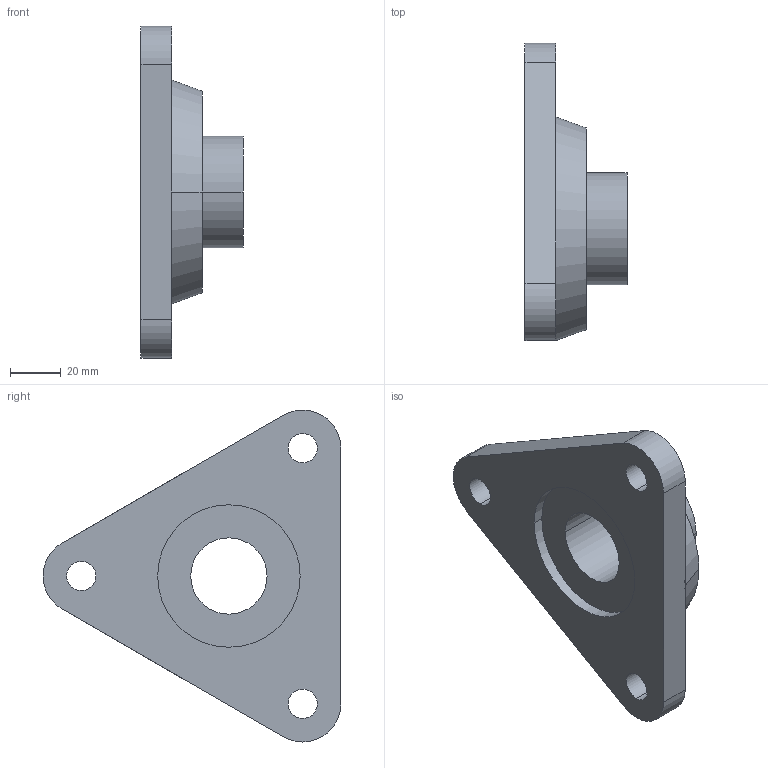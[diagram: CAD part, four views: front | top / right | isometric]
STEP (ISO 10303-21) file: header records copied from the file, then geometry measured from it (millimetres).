
FILE_DESCRIPTION(('SolidDesigner STEP Export'),'2;1');
FILE_NAME('Flanschlager_PCFTR_30.stp','2002-07-16T10:46:31',(''),(''),'SolidDesigner STEP processor Version: 9.0 (March 2001)for AP214(CD)(Solid Model)','CoCreate SolidDesigner: 11.00 12-Dec-2001(C) CoCreate Software GmbH','');
FILE_SCHEMA(('AUTOMOTIVE_DESIGN_CC2 {1 2 10303 214 -1 1 5 1}'));
Length unit declared in the file: millimetre
Products named in the file (1): Flanschlager_PCFTR_30
Bounding box: 40.1 x 117 x 130.46 mm (x, y, z)
Volume: 163507.4 mm3; surface area: 32900.3 mm2
Topology: 1 solids, 1 shells, 33 faces, 77 edges, 50 vertices
Faces by surface type: cylinder 19, plane 12, cone 2
Entity records: 844 total; most frequent: ORIENTED_EDGE 154, CARTESIAN_POINT 129, DIRECTION 128, EDGE_CURVE 77, VERTEX_POINT 50, AXIS2_PLACEMENT_3D 49, EDGE_LOOP 45, FACE_OUTER_BOUND 33
